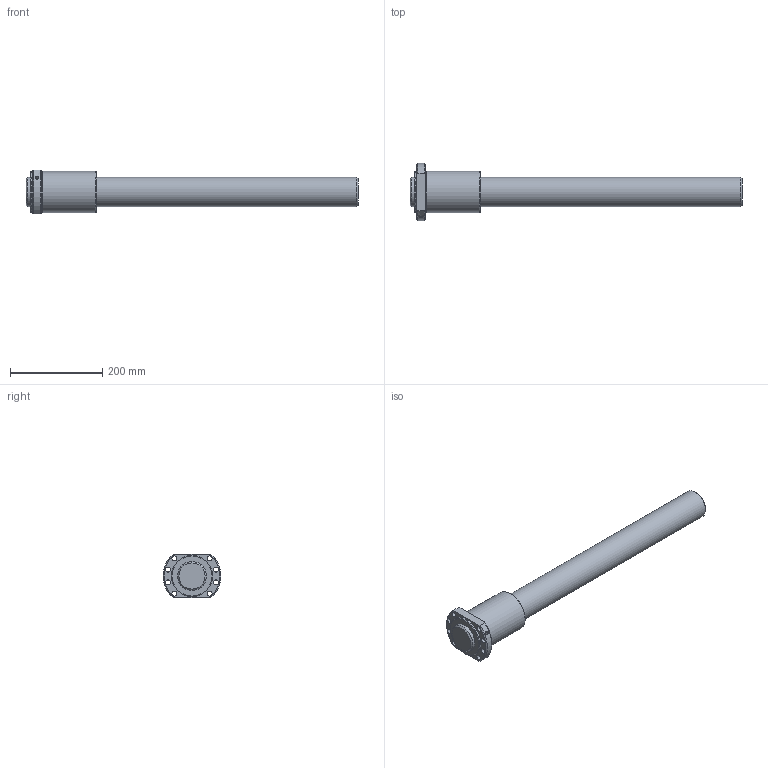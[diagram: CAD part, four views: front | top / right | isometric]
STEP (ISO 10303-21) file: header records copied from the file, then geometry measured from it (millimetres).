
FILE_DESCRIPTION(/* description */ ('STEP AP214'),/* implementation_level */ '2;1');
FILE_NAME(/* name */ 'EPB6310-8RRG0+720LC0(558G000)_rev',/* time_stamp */ '2023-08-03T13:31:41+02:00',/* author */ ('License CC BY-ND 4.0'),/* organization */ ('CADENAS'),/* preprocessor_version */ 'ST-DEVELOPER v19.3',/* originating_system */ 'PARTsolutions',/* authorisation */ ' ');
FILE_SCHEMA (('AUTOMOTIVE_DESIGN {1 0 10303 214 3 1 1}'));
Length unit declared in the file: millimetre
Products named in the file (3): EPB6310-8RRG0+720LC0(558G000)_rev; EPB 6310-8RR Nut1; EPB 6310-85580 Shaft1
Assembly tree (2 placements, depth 2):
  EPB6310-8RRG0+720LC0(558G000)_rev
    EPB 6310-8RR Nut1
    EPB 6310-85580 Shaft1
Bounding box: 720 x 125 x 95 mm (x, y, z)
Volume: 2761030.9 mm3; surface area: 237330.9 mm2
Topology: 2 solids, 2 shells, 34 faces, 77 edges, 50 vertices
Faces by surface type: cylinder 16, cone 9, plane 9
Full cylindrical faces by diameter (mm): 6.647 x1, 11 x8, 63 x2, 84.6 x1, 90 x2
Entity records: 1003 total; most frequent: CARTESIAN_POINT 187, DIRECTION 160, ORIENTED_EDGE 114, EDGE_LOOP 76, FACE_BOUND 76, AXIS2_PLACEMENT_3D 76, EDGE_CURVE 57, VERTEX_POINT 49
